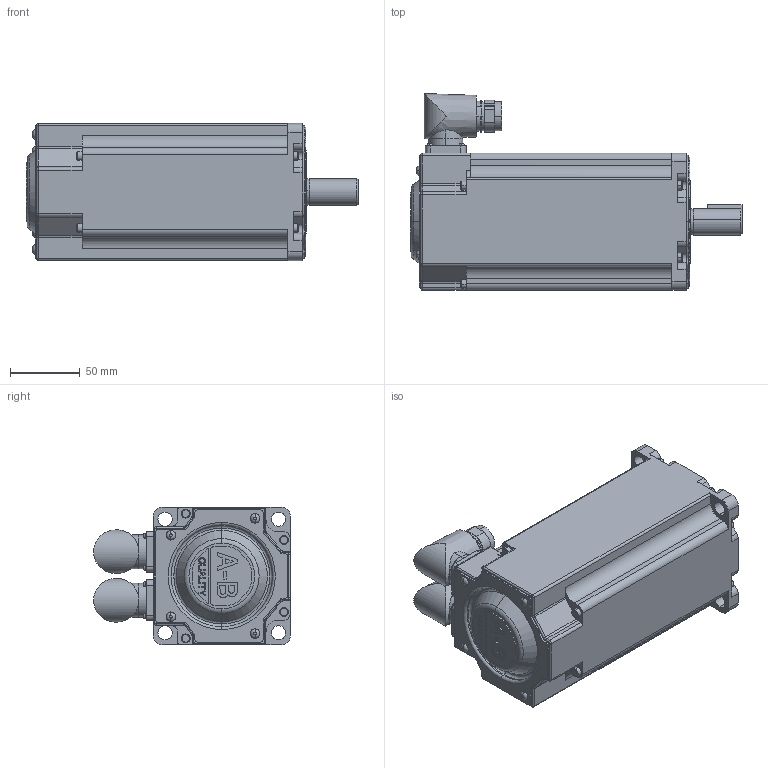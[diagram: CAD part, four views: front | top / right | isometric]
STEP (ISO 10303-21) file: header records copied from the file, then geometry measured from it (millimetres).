
FILE_DESCRIPTION (( 'STEP AP214' ), '1' );
FILE_NAME ('Rockwell Automation-MPL-x420x-xJ74AA.STEP', '2015-07-07T15:06:38', ( 'Windows User' ), ( '' ), 'SwSTEP 2.0', 'SolidWorks 2015', '' );
FILE_SCHEMA (( 'AUTOMOTIVE_DESIGN' ));
Length unit declared in the file: inch
Products named in the file (5): Rockwell Automation-MPL-x420x-xJ74AA_MPL-3xx-Encoder Connector; Rockwell Automation-MPL-x420x-xJ74AA_MPL-3xx-Power Connector; Rockwell Automation-MPL-x420x-xJ74AA_MPL-4xx-Shaft_420-shaft-keyed-BRAKE; Rockwell Automation-MPL-x420x-xJ74AA_MPL-4xx-Body_420-BRAKE; Rockwell Automation-MPL-x420x-xJ74AA
Assembly tree (4 placements, depth 2):
  Rockwell Automation-MPL-x420x-xJ74AA
    Rockwell Automation-MPL-x420x-xJ74AA_MPL-4xx-Body_420-BRAKE
    Rockwell Automation-MPL-x420x-xJ74AA_MPL-4xx-Shaft_420-shaft-keyed-BRAKE
    Rockwell Automation-MPL-x420x-xJ74AA_MPL-3xx-Power Connector
    Rockwell Automation-MPL-x420x-xJ74AA_MPL-3xx-Encoder Connector
Bounding box: 237.87 x 140.97 x 98.3 mm (x, y, z)
Volume: 868631.1 mm3; surface area: 198023 mm2
Topology: 5 solids, 5 shells, 1025 faces, 2523 edges, 1606 vertices
Faces by surface type: plane 408, cylinder 389, cone 100, torus 96, bspline 32
Entity records: 33216 total; most frequent: CARTESIAN_POINT 7525, DIRECTION 5495, ORIENTED_EDGE 5042, EDGE_CURVE 2521, AXIS2_PLACEMENT_3D 2077, VERTEX_POINT 1606, VECTOR 1341, LINE 1341
